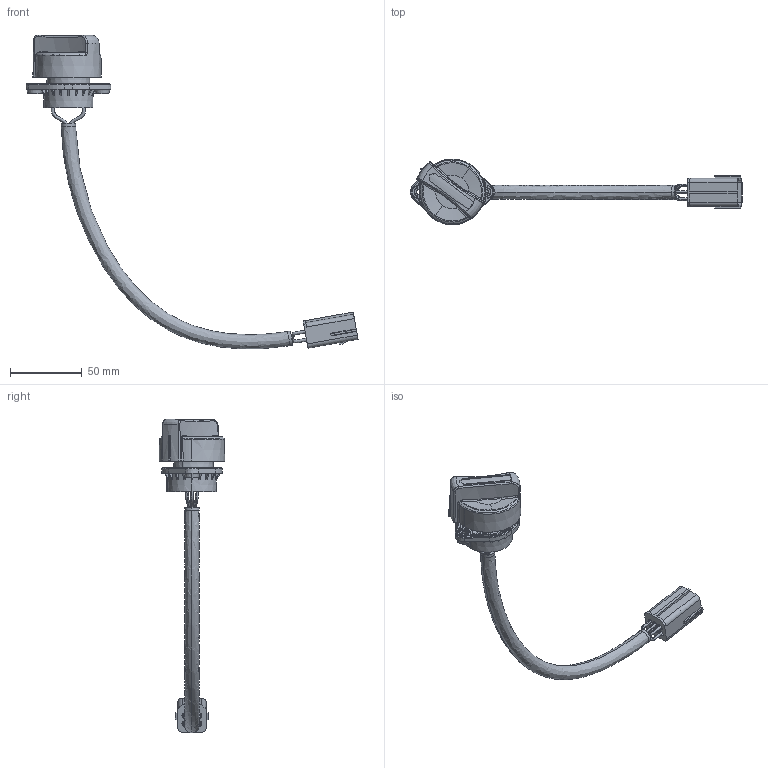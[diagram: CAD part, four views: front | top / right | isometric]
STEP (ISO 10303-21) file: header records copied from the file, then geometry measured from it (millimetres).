
FILE_DESCRIPTION (( 'STEP AP214' ), '1' );
FILE_NAME ('HTE05-WZ.STEP', '2024-07-12T06:12:30', ( '' ), ( '' ), 'SwSTEP 2.0', 'SolidWorks 2024', '' );
FILE_SCHEMA (( 'AUTOMOTIVE_DESIGN' ));
Length unit declared in the file: millimetre
Products named in the file (1): HTE05-WZ
Bounding box: 231.56 x 45.9 x 218.86 mm (x, y, z)
Volume: 64017 mm3; surface area: 40305.8 mm2
Topology: 5 solids, 9 shells, 1065 faces, 2750 edges, 1727 vertices
Faces by surface type: plane 466, bspline 170, cylinder 159, cone 141, sphere 76, torus 53
Entity records: 73972 total; most frequent: CARTESIAN_POINT 49794, ORIENTED_EDGE 5492, DIRECTION 4483, EDGE_CURVE 2746, VERTEX_POINT 1727, AXIS2_PLACEMENT_3D 1713, EDGE_LOOP 1137, ADVANCED_FACE 1065
